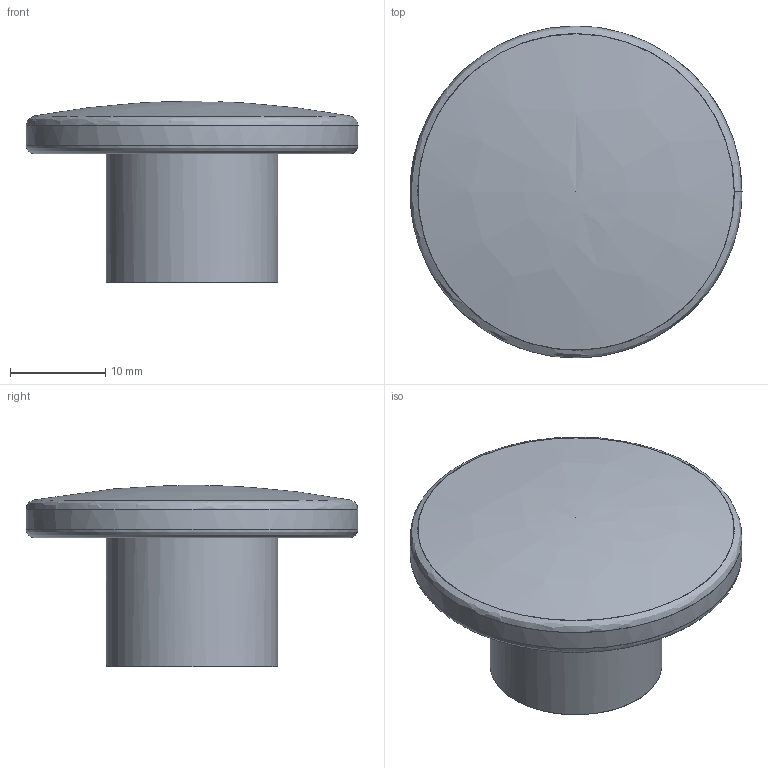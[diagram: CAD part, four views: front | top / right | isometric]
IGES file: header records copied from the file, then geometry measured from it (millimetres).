
Start section: C
Global section: file name: 0104-35.igs; native system: By Siemens PLM Incorporated; preprocessor: XPlus GENERIC/IGES 16.0.42; author: Author; organization: Title; date: 20210331.081724; units: millimetre
Bounding box: 34.8 x 34.79 x 19 mm (x, y, z)
Surface area: 4497.7 mm2 (no closed solid volume)
Topology: 0 solids, 0 shells, 14 faces, 90 edges, 88 vertices
Faces by surface type: bspline 14
